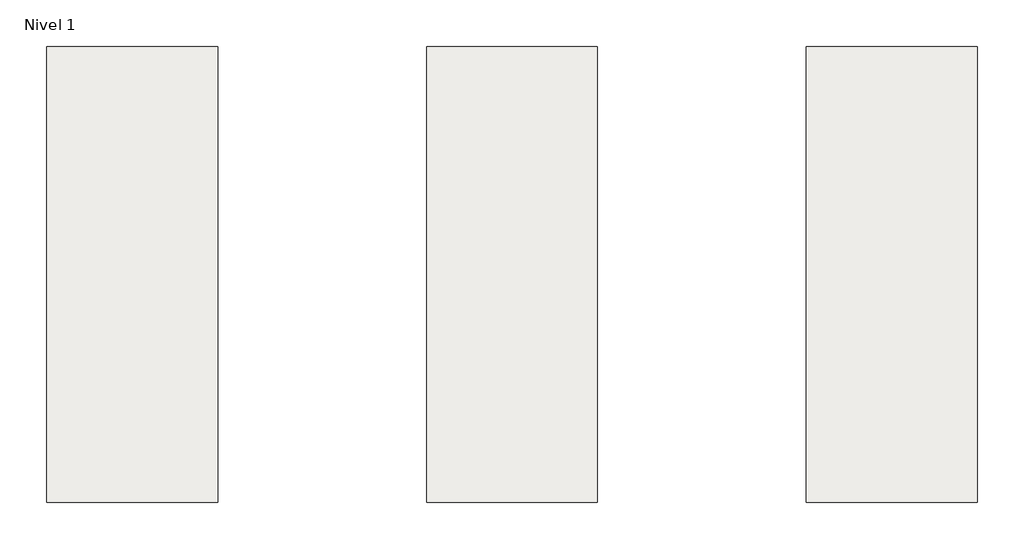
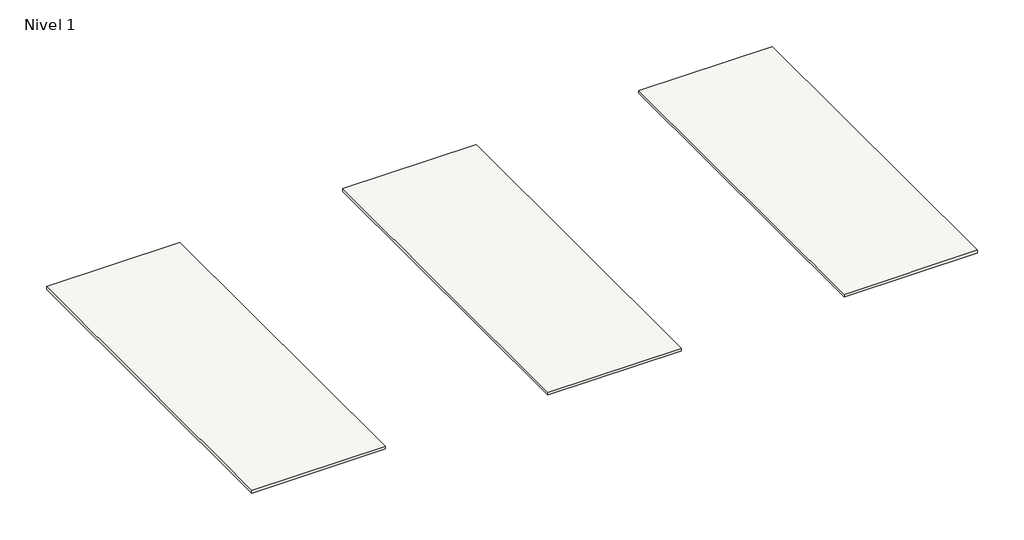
# One storey: 3 slabs.
"""IFC4 building model written with IfcOpenShell, lengths in millimetres."""

from ifc_helpers import new_model, si_unit, frame, origin, place, context, project, spatial, polyline, outline, extrude, element, save

model = new_model("IFC4")

# Units and contexts
model_context = context("Model", 3, world=origin())
ifc_project = project(units=[si_unit("LENGTHUNIT", "METRE", prefix="MILLI")], contexts=[model_context])

# Site, building, storey
site = spatial("IfcSite", under=ifc_project)
building = spatial("IfcBuilding", under=site)
storey = spatial("IfcBuildingStorey", under=building, Name="Nivel 1", Elevation=0.0)

# Slabs
placement = place(None, origin())
element("IfcSlab", 1, ObjectType="Air Blanco 45X120", at=placement, inside=storey, context=model_context, shape_type="SweptSolid", body=[
    extrude(outline(polyline([(1000.0, 1200.0), (1450.0, 1200.0), (1450.0, 0.0), (1000.0, 0.0), (1000.0, 1200.0)])), frame((0.0, 0.0, -10.0), z_axis=(0.0, 0.0, 1.0), x_axis=(1.0, 0.0, 0.0)), (0.0, 0.0, 1.0), 10.0),
])
element("IfcSlab", 2, ObjectType="Sea Blanco 45X120", at=placement, inside=storey, context=model_context, shape_type="SweptSolid", body=[
    extrude(outline(polyline([(2000.0, 1200.0), (2450.0, 1200.0), (2450.0, 0.0), (2000.0, 0.0), (2000.0, 1200.0)])), frame((0.0, 0.0, -10.0), z_axis=(0.0, 0.0, 1.0), x_axis=(1.0, 0.0, 0.0)), (0.0, 0.0, 1.0), 10.0),
])
element("IfcSlab", 3, ObjectType="Sky Blanco 45X120 Rec.", at=placement, inside=storey, context=model_context, shape_type="SweptSolid", body=[
    extrude(outline(polyline([(0.0, 1200.0), (450.0, 1200.0), (450.0, 0.0), (0.0, 0.0), (0.0, 1200.0)])), frame((0.0, 0.0, -10.0), z_axis=(0.0, 0.0, 1.0), x_axis=(1.0, 0.0, 0.0)), (0.0, 0.0, 1.0), 10.0),
])

save(model, "model.ifc")
